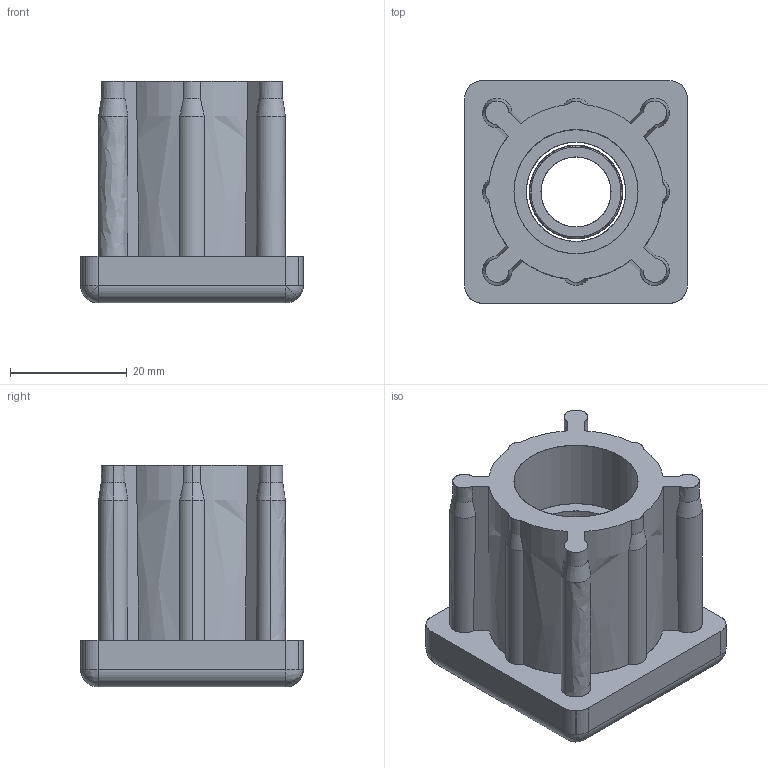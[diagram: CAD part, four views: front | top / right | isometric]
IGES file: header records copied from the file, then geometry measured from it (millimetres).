
Start section: SolidWorks IGES file using analytic representation for surfaces
Global section: file name: Y:\Tecnodin, S.L\Planos Clientes - Documentos\General\PLANOS CLIENTES\3D\-REVISAR-\CONTERAS TECOM\42006850212.IGS; native system: SolidWorks 2018; preprocessor: SolidWorks 2018; author: GerPro; date: 200226.121853; units: millimetre
Bounding box: 38.1 x 38.1 x 38 mm (x, y, z)
Surface area: 11144.9 mm2 (no closed solid volume)
Topology: 0 solids, 0 shells, 121 faces, 1205 edges, 1200 vertices
Faces by surface type: revolution 100, bspline 21
